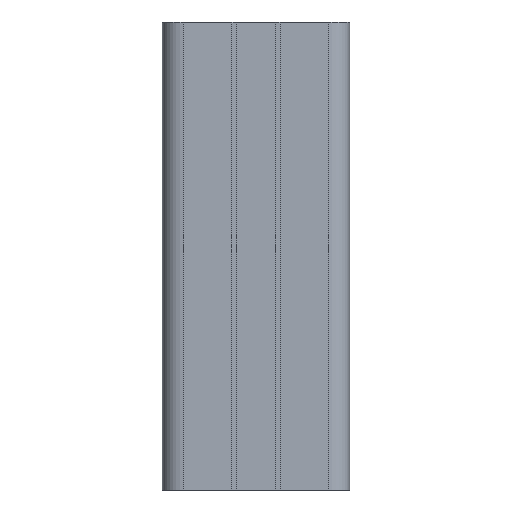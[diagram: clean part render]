
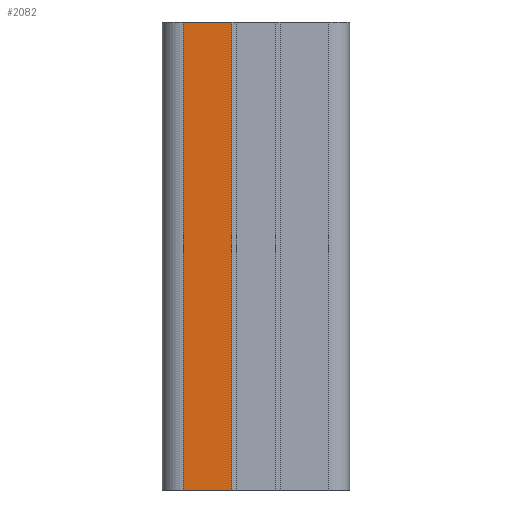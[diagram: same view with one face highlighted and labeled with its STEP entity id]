
A CAD part, front view. The second image highlights one B-rep face of the part: STEP entity #2082.
In plain terms, the highlighted planar face has unit normal (0, -1, 0).
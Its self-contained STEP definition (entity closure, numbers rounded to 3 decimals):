
#60 = LINE ( 'NONE', #2642, #3121 ) ;
#68 = DIRECTION ( 'NONE',  ( 0., -1., 0. ) ) ;
#105 = VECTOR ( 'NONE', #685, 1000. ) ;
#177 = LINE ( 'NONE', #940, #105 ) ;
#196 = EDGE_CURVE ( 'NONE', #1518, #1946, #2605, .T. ) ;
#302 = CARTESIAN_POINT ( 'NONE',  ( 20., -20., -100. ) ) ;
#370 = CARTESIAN_POINT ( 'NONE',  ( -5.15, -20., 0. ) ) ;
#433 = EDGE_CURVE ( 'NONE', #558, #1518, #2158, .T. ) ;
#558 = VERTEX_POINT ( 'NONE', #2228 ) ;
#685 = DIRECTION ( 'NONE',  ( 1., 0., 0. ) ) ;
#800 = ORIENTED_EDGE ( 'NONE', *, *, #433, .T. ) ;
#940 = CARTESIAN_POINT ( 'NONE',  ( 20., -20., 0. ) ) ;
#1100 = PLANE ( 'NONE',  #2803 ) ;
#1308 = EDGE_LOOP ( 'NONE', ( #2144, #1349, #1311, #800 ) ) ;
#1311 = ORIENTED_EDGE ( 'NONE', *, *, #1489, .T. ) ;
#1349 = ORIENTED_EDGE ( 'NONE', *, *, #2683, .F. ) ;
#1375 = DIRECTION ( 'NONE',  ( 1., 0., 0. ) ) ;
#1468 = CARTESIAN_POINT ( 'NONE',  ( -5.15, -20., -100. ) ) ;
#1489 = EDGE_CURVE ( 'NONE', #2493, #558, #60, .T. ) ;
#1518 = VERTEX_POINT ( 'NONE', #2619 ) ;
#1780 = FACE_OUTER_BOUND ( 'NONE', #1308, .T. ) ;
#1838 = DIRECTION ( 'NONE',  ( 1., 0., 0. ) ) ;
#1946 = VERTEX_POINT ( 'NONE', #370 ) ;
#2082 = ADVANCED_FACE ( 'NONE', ( #1780 ), #1100, .T. ) ;
#2126 = VECTOR ( 'NONE', #1375, 1000. ) ;
#2144 = ORIENTED_EDGE ( 'NONE', *, *, #196, .T. ) ;
#2158 = LINE ( 'NONE', #2277, #2126 ) ;
#2228 = CARTESIAN_POINT ( 'NONE',  ( -15.5, -20., -100. ) ) ;
#2277 = CARTESIAN_POINT ( 'NONE',  ( 20., -20., -100. ) ) ;
#2334 = CARTESIAN_POINT ( 'NONE',  ( -15.5, -20., 0. ) ) ;
#2493 = VERTEX_POINT ( 'NONE', #2334 ) ;
#2605 = LINE ( 'NONE', #1468, #2669 ) ;
#2619 = CARTESIAN_POINT ( 'NONE',  ( -5.15, -20., -100. ) ) ;
#2642 = CARTESIAN_POINT ( 'NONE',  ( -15.5, -20., -100. ) ) ;
#2669 = VECTOR ( 'NONE', #2807, 1000. ) ;
#2683 = EDGE_CURVE ( 'NONE', #2493, #1946, #177, .T. ) ;
#2803 = AXIS2_PLACEMENT_3D ( 'NONE', #302, #68, #1838 ) ;
#2807 = DIRECTION ( 'NONE',  ( 0., 0., 1. ) ) ;
#3115 = DIRECTION ( 'NONE',  ( 0., 0., -1. ) ) ;
#3121 = VECTOR ( 'NONE', #3115, 1000. ) ;
